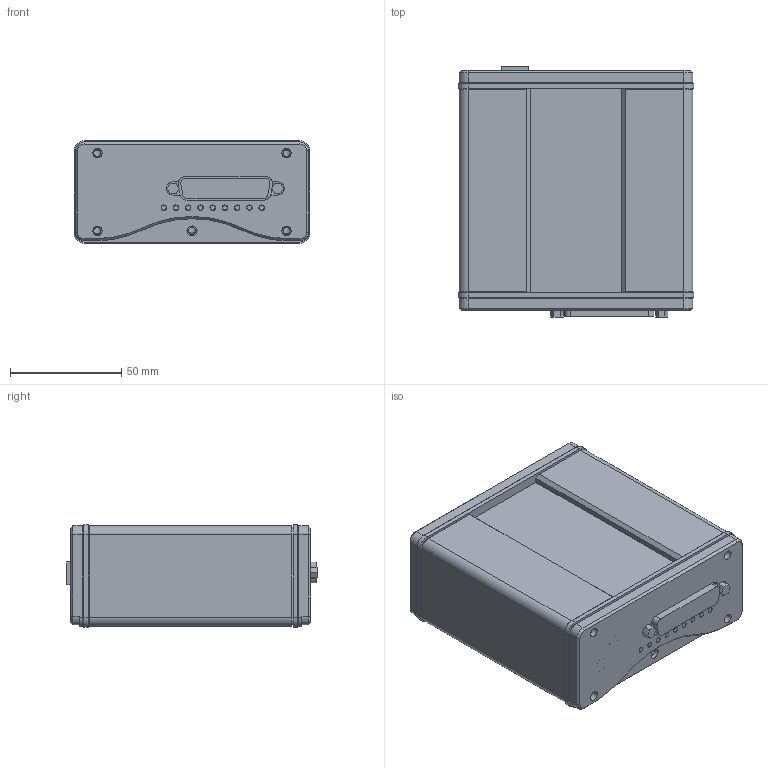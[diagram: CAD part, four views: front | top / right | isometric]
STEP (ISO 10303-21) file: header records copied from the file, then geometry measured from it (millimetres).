
FILE_DESCRIPTION(/* description */ ('Unknown'),/* implementation_level */ '2;1');
FILE_NAME(/* name */ '2895 (GA) (Complete Assembly) -02',/* time_stamp */ '2020-01-09T09:37:01+00:00',/* author */ ('Unknown'),/* organization */ ('Unknown'),/* preprocessor_version */ 'ST-DEVELOPER v16.7',/* originating_system */ 'DEX',/* authorisation */ $);
FILE_SCHEMA (('AUTOMOTIVE_DESIGN {1 0 10303 214 3 1 1}'));
Length unit declared in the file: millimetre
Products named in the file (12): 2895 (GA) (Complete Assembly) -02; 4041_A (1) (Main Assembly) -02; 4041_A001 (1) (Side Shell) -01; M4 SQUARE NUT; 4041_A005 (1) (Side Shell B) -02; 4041_A002 (1) (Top Plates) -01; 4041_A003 (1) (Base Plates) -01; 2895_B001 (2) (Gasket) -01; 2895_C001 (1) (Front Panel) -02; 2895 Rebel LT PCB assembly; 2895_C002 (1) (Window) -01; 2895_D001 (1) (Back Panel) -01
Assembly tree (21 placements, depth 3):
  2895 (GA) (Complete Assembly) -02
    4041_A (1) (Main Assembly) -02
      4041_A001 (1) (Side Shell) -01
      M4 SQUARE NUT  x10
      4041_A005 (1) (Side Shell B) -02
      4041_A002 (1) (Top Plates) -01
      4041_A003 (1) (Base Plates) -01
    2895_B001 (2) (Gasket) -01  x2
    2895_C001 (1) (Front Panel) -02
    2895 Rebel LT PCB assembly
    2895_C002 (1) (Window) -01
    2895_D001 (1) (Back Panel) -01
Bounding box: 106 x 112.4 x 46 mm (x, y, z)
Volume: 294088.3 mm3; surface area: 166589.5 mm2
Topology: 23 solids, 23 shells, 988 faces, 2699 edges, 1787 vertices
Faces by surface type: plane 721, cylinder 231, cone 35, torus 1
Full cylindrical faces by diameter (mm): 1.2 x1, 2.2 x9, 2.4 x1, 2.45 x9, 3.1 x2, 3.2 x1, 3.242 x10, 4.2 x8, 4.5 x12, 6.4 x2, 12 x1
Entity records: 31798 total; most frequent: CARTESIAN_POINT 4808, ORIENTED_EDGE 4662, DIRECTION 4596, EDGE_CURVE 2331, LINE 1842, VECTOR 1842, VERTEX_POINT 1557, AXIS2_PLACEMENT_3D 1377
